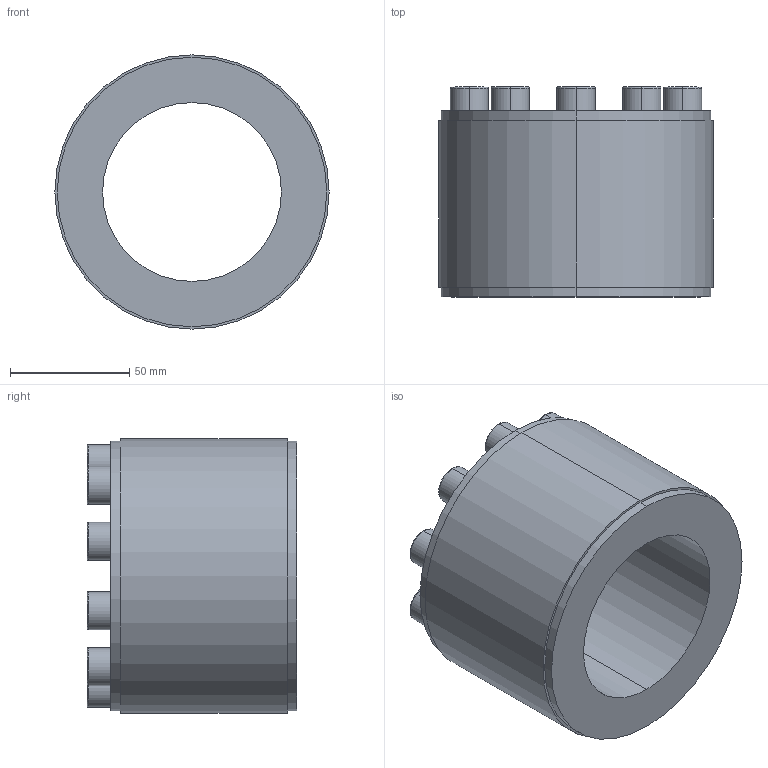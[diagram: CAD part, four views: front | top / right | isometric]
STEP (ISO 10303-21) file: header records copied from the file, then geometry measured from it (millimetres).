
FILE_DESCRIPTION (( 'STEP AP203' ), '1' );
FILE_NAME ('PL-D1 75-115.STEP', '2021-10-23T00:16:20', ( '' ), ( '' ), 'SwSTEP 2.0', 'SolidWorks 2018', '' );
FILE_SCHEMA (( 'CONFIG_CONTROL_DESIGN' ));
Length unit declared in the file: millimetre
Products named in the file (1): PL-D1 75-115
Bounding box: 115 x 88 x 115 mm (x, y, z)
Volume: 480027.2 mm3; surface area: 64749.4 mm2
Topology: 1 solids, 1 shells, 132 faces, 304 edges, 196 vertices
Faces by surface type: plane 84, cylinder 28, torus 20
Entity records: 3805 total; most frequent: DIRECTION 666, CARTESIAN_POINT 633, ORIENTED_EDGE 608, EDGE_CURVE 304, AXIS2_PLACEMENT_3D 229, LINE 208, VECTOR 208, VERTEX_POINT 196
